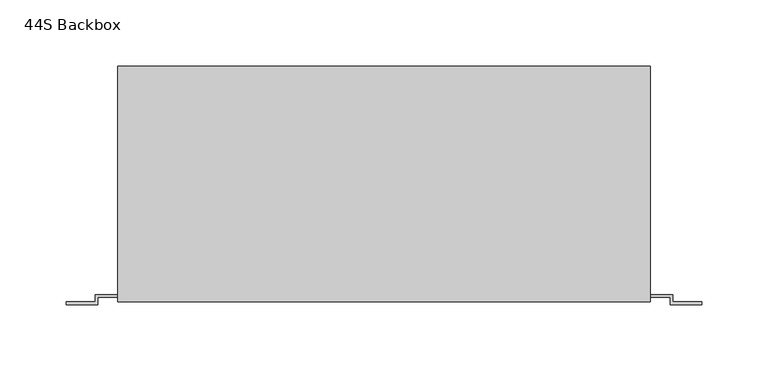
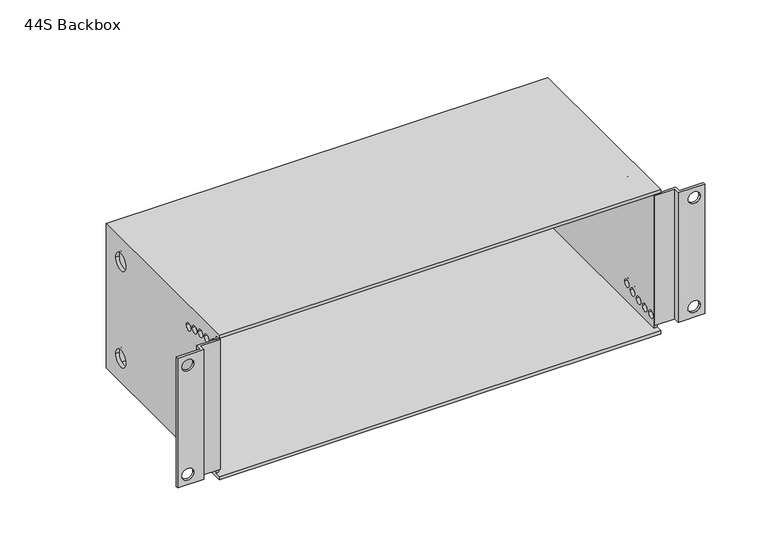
"""IFC4 building model written with IfcOpenShell, lengths in millimetres: proxy geometry, d&b xS-Series 44S Backbox : 44S Backbox."""

from ifc_helpers import new_model, si_unit, frame, origin, place, context, project, spatial, polyline, circle_curve, source, transform, mapped, element, save
from ifc_brep_helpers import plane_surface, revolved_surface, advanced_brep


def proxy_44s_backbox_d0b5ccca(model_context):
    return source(origin(), model_context, "Body", "AdvancedBrep", [
        advanced_brep(
        [(201.0, -90.5, 69.5), (201.0, -90.5, 66.5), (201.0, -85.0, 66.5), (201.0, -85.0, -66.5), (201.0, -90.5, -66.5), (201.0, -90.5, -69.5), (201.0, 87.5, -69.5), (201.0, 87.5, 69.5), (201.0, 56.5, 46.5), (201.0, 72.5, 46.5), (201.0, 56.5, -46.5), (201.0, 72.5, -46.5), (201.0, -46.0357641, 48.8058809), (201.0, -39.0357641, 48.8058809), (201.0, -55.271086, 51.7177667), (201.0, -48.271086, 51.7177667), (201.0, -64.7250523, 53.8136606), (201.0, -57.7250523, 53.8136606), (201.0, -74.3257126, 55.0776115), (201.0, -67.3257126, 55.0776115), (201.0, -84.0, -55.5), (201.0, -77.0, -55.5), (201.0, -74.3257126, -55.0776115), (201.0, -67.3257126, -55.0776115), (201.0, -64.7250523, -53.8136606), (201.0, -57.7250523, -53.8136606), (201.0, -55.271086, -51.7177667), (201.0, -48.271086, -51.7177667), (201.0, -46.0357641, -48.8058809), (201.0, -39.0357641, -48.8058809), (-201.0, -90.5, 69.5), (-201.0, 87.5, 69.5), (-201.0, 87.5, -69.5), (-201.0, -90.5, -69.5), (-201.0, -90.5, -66.5), (-201.0, -85.0, -66.5), (-201.0, -85.0, 66.5), (-201.0, -90.5, 66.5), (-201.0, 56.5, 46.5), (-201.0, 72.5, 46.5), (-201.0, 56.5, -46.5), (-201.0, 72.5, -46.5), (-201.0, -46.0357641, 48.8058809), (-201.0, -39.0357641, 48.8058809), (-201.0, -55.271086, 51.7177667), (-201.0, -48.271086, 51.7177667), (-201.0, -64.7250523, 53.8136606), (-201.0, -57.7250523, 53.8136606), (-201.0, -74.3257126, 55.0776115), (-201.0, -67.3257126, 55.0776115), (-201.0, -84.0, -55.5), (-201.0, -77.0, -55.5), (-201.0, -74.3257126, -55.0776115), (-201.0, -67.3257126, -55.0776115), (-201.0, -64.7250523, -53.8136606), (-201.0, -57.7250523, -53.8136606), (-201.0, -55.271086, -51.7177667), (-201.0, -48.271086, -51.7177667), (-201.0, -46.0357641, -48.8058809), (-201.0, -39.0357641, -48.8058809), (-201.0, -84.0, 55.5), (-201.0, -77.0, 55.5), (-198.0, -85.0, 66.5), (-198.0, 84.5, 66.5), (198.0, 84.5, 66.5), (198.0, -85.0, 66.5), (-198.0, 84.5, -66.5), (198.0, 84.5, -66.5), (198.0, -85.0, -66.5), (-198.0, -85.0, -66.5), (-198.0, 56.5, 46.5), (-198.0, 72.5, 46.5), (-198.0, 56.5, -46.5), (-198.0, 72.5, -46.5), (-198.0, -46.0357641, 48.8058809), (-198.0, -39.0357641, 48.8058809), (-198.0, -55.271086, 51.7177667), (-198.0, -48.271086, 51.7177667), (-198.0, -64.7250523, 53.8136606), (-198.0, -57.7250523, 53.8136606), (-198.0, -74.3257126, 55.0776115), (-198.0, -67.3257126, 55.0776115), (-198.0, -84.0, -55.5), (-198.0, -77.0, -55.5), (-198.0, -74.3257126, -55.0776115), (-198.0, -67.3257126, -55.0776115), (-198.0, -64.7250523, -53.8136606), (-198.0, -57.7250523, -53.8136606), (-198.0, -55.271086, -51.7177667), (-198.0, -48.271086, -51.7177667), (-198.0, -46.0357641, -48.8058809), (-198.0, -39.0357641, -48.8058809), (-198.0, -84.0, 55.5), (-198.0, -77.0, 55.5), (198.0, 56.5, 46.5), (198.0, 72.5, 46.5), (198.0, 56.5, -46.5), (198.0, 72.5, -46.5), (198.0, -46.0357641, 48.8058809), (198.0, -39.0357641, 48.8058809), (198.0, -55.271086, 51.7177667), (198.0, -48.271086, 51.7177667), (198.0, -64.7250523, 53.8136606), (198.0, -57.7250523, 53.8136606), (198.0, -74.3257126, 55.0776115), (198.0, -67.3257126, 55.0776115), (198.0, -84.0, -55.5), (198.0, -77.0, -55.5), (198.0, -74.3257126, -55.0776115), (198.0, -67.3257126, -55.0776115), (198.0, -64.7250523, -53.8136606), (198.0, -57.7250523, -53.8136606), (198.0, -55.271086, -51.7177667), (198.0, -48.271086, -51.7177667), (198.0, -46.0357641, -48.8058809), (198.0, -39.0357641, -48.8058809)],
        [
            (0, 1),
            (1, 2),
            (2, 3),
            (3, 4),
            (4, 5),
            (5, 6),
            (6, 7),
            (7, 0),
            (8, 9, circle_curve(frame((201.0, 64.5, 46.5), z_axis=(-1.0, 0.0, 0.0), x_axis=(0.0, 1.0, 0.0)), 8.0)),
            (9, 8, circle_curve(frame((201.0, 64.5, 46.5), z_axis=(-1.0, 0.0, 0.0), x_axis=(0.0, 1.0, 0.0)), 8.0)),
            (10, 11, circle_curve(frame((201.0, 64.5, -46.5), z_axis=(-1.0, 0.0, 0.0), x_axis=(0.0, 1.0, 0.0)), 8.0)),
            (11, 10, circle_curve(frame((201.0, 64.5, -46.5), z_axis=(-1.0, 0.0, 0.0), x_axis=(0.0, 1.0, 0.0)), 8.0)),
            (12, 13, circle_curve(frame((201.0, -42.5357641, 48.8058809), z_axis=(-1.0, 0.0, 0.0), x_axis=(0.0, 1.0, 0.0)), 3.5)),
            (13, 12, circle_curve(frame((201.0, -42.5357641, 48.8058809), z_axis=(-1.0, 0.0, 0.0), x_axis=(0.0, 1.0, 0.0)), 3.5)),
            (14, 15, circle_curve(frame((201.0, -51.771086, 51.7177667), z_axis=(-1.0, 0.0, 0.0), x_axis=(0.0, 1.0, 0.0)), 3.5)),
            (15, 14, circle_curve(frame((201.0, -51.771086, 51.7177667), z_axis=(-1.0, 0.0, 0.0), x_axis=(0.0, 1.0, 0.0)), 3.5)),
            (16, 17, circle_curve(frame((201.0, -61.2250523, 53.8136606), z_axis=(-1.0, 0.0, 0.0), x_axis=(0.0, 1.0, 0.0)), 3.5)),
            (17, 16, circle_curve(frame((201.0, -61.2250523, 53.8136606), z_axis=(-1.0, 0.0, 0.0), x_axis=(0.0, 1.0, 0.0)), 3.5)),
            (18, 19, circle_curve(frame((201.0, -70.8257126, 55.0776115), z_axis=(-1.0, 0.0, 0.0), x_axis=(0.0, 1.0, 0.0)), 3.5)),
            (19, 18, circle_curve(frame((201.0, -70.8257126, 55.0776115), z_axis=(-1.0, 0.0, 0.0), x_axis=(0.0, 1.0, 0.0)), 3.5)),
            (20, 21, circle_curve(frame((201.0, -80.5, -55.5), z_axis=(-1.0, 0.0, 0.0), x_axis=(0.0, 1.0, 0.0)), 3.5)),
            (21, 20, circle_curve(frame((201.0, -80.5, -55.5), z_axis=(-1.0, 0.0, 0.0), x_axis=(0.0, 1.0, 0.0)), 3.5)),
            (22, 23, circle_curve(frame((201.0, -70.8257126, -55.0776115), z_axis=(-1.0, 0.0, 0.0), x_axis=(0.0, 1.0, 0.0)), 3.5)),
            (23, 22, circle_curve(frame((201.0, -70.8257126, -55.0776115), z_axis=(-1.0, 0.0, 0.0), x_axis=(0.0, 1.0, 0.0)), 3.5)),
            (24, 25, circle_curve(frame((201.0, -61.2250523, -53.8136606), z_axis=(-1.0, 0.0, 0.0), x_axis=(0.0, 1.0, 0.0)), 3.5)),
            (25, 24, circle_curve(frame((201.0, -61.2250523, -53.8136606), z_axis=(-1.0, 0.0, 0.0), x_axis=(0.0, 1.0, 0.0)), 3.5)),
            (26, 27, circle_curve(frame((201.0, -51.771086, -51.7177667), z_axis=(-1.0, 0.0, 0.0), x_axis=(0.0, 1.0, 0.0)), 3.5)),
            (27, 26, circle_curve(frame((201.0, -51.771086, -51.7177667), z_axis=(-1.0, 0.0, 0.0), x_axis=(0.0, 1.0, 0.0)), 3.5)),
            (28, 29, circle_curve(frame((201.0, -42.5357641, -48.8058809), z_axis=(-1.0, 0.0, 0.0), x_axis=(0.0, 1.0, 0.0)), 3.5)),
            (29, 28, circle_curve(frame((201.0, -42.5357641, -48.8058809), z_axis=(-1.0, 0.0, 0.0), x_axis=(0.0, 1.0, 0.0)), 3.5)),
            (30, 31),
            (31, 32),
            (32, 33),
            (33, 34),
            (34, 35),
            (35, 36),
            (36, 37),
            (37, 30),
            (38, 39, circle_curve(frame((-201.0, 64.5, 46.5), z_axis=(1.0, 0.0, 0.0), x_axis=(0.0, 1.0, 0.0)), 8.0)),
            (39, 38, circle_curve(frame((-201.0, 64.5, 46.5), z_axis=(1.0, 0.0, 0.0), x_axis=(0.0, 1.0, 0.0)), 8.0)),
            (40, 41, circle_curve(frame((-201.0, 64.5, -46.5), z_axis=(1.0, 0.0, 0.0), x_axis=(0.0, 1.0, 0.0)), 8.0)),
            (41, 40, circle_curve(frame((-201.0, 64.5, -46.5), z_axis=(1.0, 0.0, 0.0), x_axis=(0.0, 1.0, 0.0)), 8.0)),
            (42, 43, circle_curve(frame((-201.0, -42.5357641, 48.8058809), z_axis=(1.0, 0.0, 0.0), x_axis=(0.0, 1.0, 0.0)), 3.5)),
            (43, 42, circle_curve(frame((-201.0, -42.5357641, 48.8058809), z_axis=(1.0, 0.0, 0.0), x_axis=(0.0, 1.0, 0.0)), 3.5)),
            (44, 45, circle_curve(frame((-201.0, -51.771086, 51.7177667), z_axis=(1.0, 0.0, 0.0), x_axis=(0.0, 1.0, 0.0)), 3.5)),
            (45, 44, circle_curve(frame((-201.0, -51.771086, 51.7177667), z_axis=(1.0, 0.0, 0.0), x_axis=(0.0, 1.0, 0.0)), 3.5)),
            (46, 47, circle_curve(frame((-201.0, -61.2250523, 53.8136606), z_axis=(1.0, 0.0, 0.0), x_axis=(0.0, 1.0, 0.0)), 3.5)),
            (47, 46, circle_curve(frame((-201.0, -61.2250523, 53.8136606), z_axis=(1.0, 0.0, 0.0), x_axis=(0.0, 1.0, 0.0)), 3.5)),
            (48, 49, circle_curve(frame((-201.0, -70.8257126, 55.0776115), z_axis=(1.0, 0.0, 0.0), x_axis=(0.0, 1.0, 0.0)), 3.5)),
            (49, 48, circle_curve(frame((-201.0, -70.8257126, 55.0776115), z_axis=(1.0, 0.0, 0.0), x_axis=(0.0, 1.0, 0.0)), 3.5)),
            (50, 51, circle_curve(frame((-201.0, -80.5, -55.5), z_axis=(1.0, 0.0, 0.0), x_axis=(0.0, 1.0, 0.0)), 3.5)),
            (51, 50, circle_curve(frame((-201.0, -80.5, -55.5), z_axis=(1.0, 0.0, 0.0), x_axis=(0.0, 1.0, 0.0)), 3.5)),
            (52, 53, circle_curve(frame((-201.0, -70.8257126, -55.0776115), z_axis=(1.0, 0.0, 0.0), x_axis=(0.0, 1.0, 0.0)), 3.5)),
            (53, 52, circle_curve(frame((-201.0, -70.8257126, -55.0776115), z_axis=(1.0, 0.0, 0.0), x_axis=(0.0, 1.0, 0.0)), 3.5)),
            (54, 55, circle_curve(frame((-201.0, -61.2250523, -53.8136606), z_axis=(1.0, 0.0, 0.0), x_axis=(0.0, 1.0, 0.0)), 3.5)),
            (55, 54, circle_curve(frame((-201.0, -61.2250523, -53.8136606), z_axis=(1.0, 0.0, 0.0), x_axis=(0.0, 1.0, 0.0)), 3.5)),
            (56, 57, circle_curve(frame((-201.0, -51.771086, -51.7177667), z_axis=(1.0, 0.0, 0.0), x_axis=(0.0, 1.0, 0.0)), 3.5)),
            (57, 56, circle_curve(frame((-201.0, -51.771086, -51.7177667), z_axis=(1.0, 0.0, 0.0), x_axis=(0.0, 1.0, 0.0)), 3.5)),
            (58, 59, circle_curve(frame((-201.0, -42.5357641, -48.8058809), z_axis=(1.0, 0.0, 0.0), x_axis=(0.0, 1.0, 0.0)), 3.5)),
            (59, 58, circle_curve(frame((-201.0, -42.5357641, -48.8058809), z_axis=(1.0, 0.0, 0.0), x_axis=(0.0, 1.0, 0.0)), 3.5)),
            (60, 61, circle_curve(frame((-201.0, -80.5, 55.5), z_axis=(1.0, 0.0, 0.0), x_axis=(0.0, 1.0, 0.0)), 3.5)),
            (61, 60, circle_curve(frame((-201.0, -80.5, 55.5), z_axis=(1.0, 0.0, 0.0), x_axis=(0.0, 1.0, 0.0)), 3.5)),
            (0, 30),
            (37, 1),
            (36, 62),
            (62, 63),
            (63, 64),
            (64, 65),
            (65, 2),
            (63, 66),
            (66, 67),
            (67, 64),
            (34, 4),
            (3, 68),
            (68, 67),
            (66, 69),
            (69, 35),
            (33, 5),
            (32, 6),
            (31, 7),
            (62, 69),
            (70, 71, circle_curve(frame((-198.0, 64.5, 46.5), z_axis=(-1.0, 0.0, 0.0), x_axis=(0.0, 1.0, 0.0)), 8.0)),
            (71, 70, circle_curve(frame((-198.0, 64.5, 46.5), z_axis=(-1.0, 0.0, 0.0), x_axis=(0.0, 1.0, 0.0)), 8.0)),
            (72, 73, circle_curve(frame((-198.0, 64.5, -46.5), z_axis=(-1.0, 0.0, 0.0), x_axis=(0.0, 1.0, 0.0)), 8.0)),
            (73, 72, circle_curve(frame((-198.0, 64.5, -46.5), z_axis=(-1.0, 0.0, 0.0), x_axis=(0.0, 1.0, 0.0)), 8.0)),
            (74, 75, circle_curve(frame((-198.0, -42.5357641, 48.8058809), z_axis=(-1.0, 0.0, 0.0), x_axis=(0.0, 1.0, 0.0)), 3.5)),
            (75, 74, circle_curve(frame((-198.0, -42.5357641, 48.8058809), z_axis=(-1.0, 0.0, 0.0), x_axis=(0.0, 1.0, 0.0)), 3.5)),
            (76, 77, circle_curve(frame((-198.0, -51.771086, 51.7177667), z_axis=(-1.0, 0.0, 0.0), x_axis=(0.0, 1.0, 0.0)), 3.5)),
            (77, 76, circle_curve(frame((-198.0, -51.771086, 51.7177667), z_axis=(-1.0, 0.0, 0.0), x_axis=(0.0, 1.0, 0.0)), 3.5)),
            (78, 79, circle_curve(frame((-198.0, -61.2250523, 53.8136606), z_axis=(-1.0, 0.0, 0.0), x_axis=(0.0, 1.0, 0.0)), 3.5)),
            (79, 78, circle_curve(frame((-198.0, -61.2250523, 53.8136606), z_axis=(-1.0, 0.0, 0.0), x_axis=(0.0, 1.0, 0.0)), 3.5)),
            (80, 81, circle_curve(frame((-198.0, -70.8257126, 55.0776115), z_axis=(-1.0, 0.0, 0.0), x_axis=(0.0, 1.0, 0.0)), 3.5)),
            (81, 80, circle_curve(frame((-198.0, -70.8257126, 55.0776115), z_axis=(-1.0, 0.0, 0.0), x_axis=(0.0, 1.0, 0.0)), 3.5)),
            (82, 83, circle_curve(frame((-198.0, -80.5, -55.5), z_axis=(-1.0, 0.0, 0.0), x_axis=(0.0, 1.0, 0.0)), 3.5)),
            (83, 82, circle_curve(frame((-198.0, -80.5, -55.5), z_axis=(-1.0, 0.0, 0.0), x_axis=(0.0, 1.0, 0.0)), 3.5)),
            (84, 85, circle_curve(frame((-198.0, -70.8257126, -55.0776115), z_axis=(-1.0, 0.0, 0.0), x_axis=(0.0, 1.0, 0.0)), 3.5)),
            (85, 84, circle_curve(frame((-198.0, -70.8257126, -55.0776115), z_axis=(-1.0, 0.0, 0.0), x_axis=(0.0, 1.0, 0.0)), 3.5)),
            (86, 87, circle_curve(frame((-198.0, -61.2250523, -53.8136606), z_axis=(-1.0, 0.0, 0.0), x_axis=(0.0, 1.0, 0.0)), 3.5)),
            (87, 86, circle_curve(frame((-198.0, -61.2250523, -53.8136606), z_axis=(-1.0, 0.0, 0.0), x_axis=(0.0, 1.0, 0.0)), 3.5)),
            (88, 89, circle_curve(frame((-198.0, -51.771086, -51.7177667), z_axis=(-1.0, 0.0, 0.0), x_axis=(0.0, 1.0, 0.0)), 3.5)),
            (89, 88, circle_curve(frame((-198.0, -51.771086, -51.7177667), z_axis=(-1.0, 0.0, 0.0), x_axis=(0.0, 1.0, 0.0)), 3.5)),
            (90, 91, circle_curve(frame((-198.0, -42.5357641, -48.8058809), z_axis=(-1.0, 0.0, 0.0), x_axis=(0.0, 1.0, 0.0)), 3.5)),
            (91, 90, circle_curve(frame((-198.0, -42.5357641, -48.8058809), z_axis=(-1.0, 0.0, 0.0), x_axis=(0.0, 1.0, 0.0)), 3.5)),
            (92, 93, circle_curve(frame((-198.0, -80.5, 55.5), z_axis=(-1.0, 0.0, 0.0), x_axis=(0.0, 1.0, 0.0)), 3.5)),
            (93, 92, circle_curve(frame((-198.0, -80.5, 55.5), z_axis=(-1.0, 0.0, 0.0), x_axis=(0.0, 1.0, 0.0)), 3.5)),
            (70, 38),
            (39, 71),
            (72, 40),
            (41, 73),
            (74, 42),
            (43, 75),
            (76, 44),
            (45, 77),
            (78, 46),
            (47, 79),
            (80, 48),
            (49, 81),
            (82, 50),
            (51, 83),
            (84, 52),
            (53, 85),
            (86, 54),
            (55, 87),
            (88, 56),
            (57, 89),
            (90, 58),
            (59, 91),
            (68, 65),
            (94, 95, circle_curve(frame((198.0, 64.5, 46.5), z_axis=(1.0, 0.0, 0.0), x_axis=(0.0, 1.0, 0.0)), 8.0)),
            (95, 94, circle_curve(frame((198.0, 64.5, 46.5), z_axis=(1.0, 0.0, 0.0), x_axis=(0.0, 1.0, 0.0)), 8.0)),
            (96, 97, circle_curve(frame((198.0, 64.5, -46.5), z_axis=(1.0, 0.0, 0.0), x_axis=(0.0, 1.0, 0.0)), 8.0)),
            (97, 96, circle_curve(frame((198.0, 64.5, -46.5), z_axis=(1.0, 0.0, 0.0), x_axis=(0.0, 1.0, 0.0)), 8.0)),
            (98, 99, circle_curve(frame((198.0, -42.5357641, 48.8058809), z_axis=(1.0, 0.0, 0.0), x_axis=(0.0, 1.0, 0.0)), 3.5)),
            (99, 98, circle_curve(frame((198.0, -42.5357641, 48.8058809), z_axis=(1.0, 0.0, 0.0), x_axis=(0.0, 1.0, 0.0)), 3.5)),
            (100, 101, circle_curve(frame((198.0, -51.771086, 51.7177667), z_axis=(1.0, 0.0, 0.0), x_axis=(0.0, 1.0, 0.0)), 3.5)),
            (101, 100, circle_curve(frame((198.0, -51.771086, 51.7177667), z_axis=(1.0, 0.0, 0.0), x_axis=(0.0, 1.0, 0.0)), 3.5)),
            (102, 103, circle_curve(frame((198.0, -61.2250523, 53.8136606), z_axis=(1.0, 0.0, 0.0), x_axis=(0.0, 1.0, 0.0)), 3.5)),
            (103, 102, circle_curve(frame((198.0, -61.2250523, 53.8136606), z_axis=(1.0, 0.0, 0.0), x_axis=(0.0, 1.0, 0.0)), 3.5)),
            (104, 105, circle_curve(frame((198.0, -70.8257126, 55.0776115), z_axis=(1.0, 0.0, 0.0), x_axis=(0.0, 1.0, 0.0)), 3.5)),
            (105, 104, circle_curve(frame((198.0, -70.8257126, 55.0776115), z_axis=(1.0, 0.0, 0.0), x_axis=(0.0, 1.0, 0.0)), 3.5)),
            (106, 107, circle_curve(frame((198.0, -80.5, -55.5), z_axis=(1.0, 0.0, 0.0), x_axis=(0.0, 1.0, 0.0)), 3.5)),
            (107, 106, circle_curve(frame((198.0, -80.5, -55.5), z_axis=(1.0, 0.0, 0.0), x_axis=(0.0, 1.0, 0.0)), 3.5)),
            (108, 109, circle_curve(frame((198.0, -70.8257126, -55.0776115), z_axis=(1.0, 0.0, 0.0), x_axis=(0.0, 1.0, 0.0)), 3.5)),
            (109, 108, circle_curve(frame((198.0, -70.8257126, -55.0776115), z_axis=(1.0, 0.0, 0.0), x_axis=(0.0, 1.0, 0.0)), 3.5)),
            (110, 111, circle_curve(frame((198.0, -61.2250523, -53.8136606), z_axis=(1.0, 0.0, 0.0), x_axis=(0.0, 1.0, 0.0)), 3.5)),
            (111, 110, circle_curve(frame((198.0, -61.2250523, -53.8136606), z_axis=(1.0, 0.0, 0.0), x_axis=(0.0, 1.0, 0.0)), 3.5)),
            (112, 113, circle_curve(frame((198.0, -51.771086, -51.7177667), z_axis=(1.0, 0.0, 0.0), x_axis=(0.0, 1.0, 0.0)), 3.5)),
            (113, 112, circle_curve(frame((198.0, -51.771086, -51.7177667), z_axis=(1.0, 0.0, 0.0), x_axis=(0.0, 1.0, 0.0)), 3.5)),
            (114, 115, circle_curve(frame((198.0, -42.5357641, -48.8058809), z_axis=(1.0, 0.0, 0.0), x_axis=(0.0, 1.0, 0.0)), 3.5)),
            (115, 114, circle_curve(frame((198.0, -42.5357641, -48.8058809), z_axis=(1.0, 0.0, 0.0), x_axis=(0.0, 1.0, 0.0)), 3.5)),
            (92, 60),
            (61, 93),
            (95, 9),
            (8, 94),
            (97, 11),
            (10, 96),
            (99, 13),
            (12, 98),
            (101, 15),
            (14, 100),
            (103, 17),
            (16, 102),
            (105, 19),
            (18, 104),
            (107, 21),
            (20, 106),
            (109, 23),
            (22, 108),
            (111, 25),
            (24, 110),
            (113, 27),
            (26, 112),
            (115, 29),
            (28, 114),
        ],
        [
            plane_surface(frame((201.0, -90.5, -374.3), z_axis=(1.0, 0.0, 0.0), x_axis=(0.0, 0.0, -1.0))),
            plane_surface(frame((-201.0, -90.5, -374.3), z_axis=(-1.0, 0.0, 0.0), x_axis=(0.0, 0.0, 1.0))),
            plane_surface(frame((201.0, -90.5, 69.5), z_axis=(0.0, -1.0, 0.0), x_axis=(-1.0, 0.0, 0.0))),
            plane_surface(frame((201.0, -90.5, 66.5), z_axis=(0.0, 0.0, -1.0), x_axis=(-1.0, 0.0, 0.0))),
            plane_surface(frame((201.0, 84.5, 66.5), z_axis=(0.0, -1.0, 0.0), x_axis=(-1.0, 0.0, 0.0))),
            plane_surface(frame((201.0, 84.5, -66.5), z_axis=(0.0, 0.0, 1.0), x_axis=(-1.0, 0.0, 0.0))),
            plane_surface(frame((201.0, -90.5, -66.5), z_axis=(0.0, -1.0, 0.0), x_axis=(-1.0, 0.0, 0.0))),
            plane_surface(frame((201.0, -90.5, -69.5), z_axis=(0.0, 0.0, -1.0), x_axis=(-1.0, 0.0, 0.0))),
            plane_surface(frame((201.0, 87.5, -69.5), z_axis=(0.0, 1.0, 0.0), x_axis=(-1.0, 0.0, 0.0))),
            plane_surface(frame((201.0, 87.5, 69.5), z_axis=(0.0, 0.0, 1.0), x_axis=(-1.0, 0.0, 0.0))),
            plane_surface(frame((-198.0, -85.0, 69.5), z_axis=(1.0, 0.0, 0.0), x_axis=(0.0, 0.0, -1.0))),
            plane_surface(frame((-198.0, -85.0, 66.5), z_axis=(0.0, -1.0, 0.0), x_axis=(-1.0, 0.0, 0.0))),
            revolved_surface(polyline([(-201.0, 72.5, 46.5), (-198.0, 72.5, 46.5)]), (-201.0, 64.5, 46.5), (-1.0, 0.0, 0.0)),
            revolved_surface(polyline([(-201.0, 72.5, -46.5), (-198.0, 72.5, -46.5)]), (-201.0, 64.5, -46.5), (-1.0, 0.0, 0.0)),
            revolved_surface(polyline([(-201.0, -39.0357641, 48.8058809), (-198.0, -39.0357641, 48.8058809)]), (-201.0, -42.5357641, 48.8058809), (-1.0, 0.0, 0.0)),
            revolved_surface(polyline([(-201.0, -48.271086, 51.7177667), (-198.0, -48.271086, 51.7177667)]), (-201.0, -51.771086, 51.7177667), (-1.0, 0.0, 0.0)),
            revolved_surface(polyline([(-201.0, -57.7250523, 53.8136606), (-198.0, -57.7250523, 53.8136606)]), (-201.0, -61.2250523, 53.8136606), (-1.0, 0.0, 0.0)),
            revolved_surface(polyline([(-201.0, -67.3257126, 55.0776115), (-198.0, -67.3257126, 55.0776115)]), (-201.0, -70.8257126, 55.0776115), (-1.0, 0.0, 0.0)),
            revolved_surface(polyline([(-201.0, -77.0, -55.5), (-198.0, -77.0, -55.5)]), (-201.0, -80.5, -55.5), (-1.0, 0.0, 0.0)),
            revolved_surface(polyline([(-201.0, -67.3257126, -55.0776115), (-198.0, -67.3257126, -55.0776115)]), (-201.0, -70.8257126, -55.0776115), (-1.0, 0.0, 0.0)),
            revolved_surface(polyline([(-201.0, -57.7250523, -53.8136606), (-198.0, -57.7250523, -53.8136606)]), (-201.0, -61.2250523, -53.8136606), (-1.0, 0.0, 0.0)),
            revolved_surface(polyline([(-201.0, -48.271086, -51.7177667), (-198.0, -48.271086, -51.7177667)]), (-201.0, -51.771086, -51.7177667), (-1.0, 0.0, 0.0)),
            revolved_surface(polyline([(-201.0, -39.0357641, -48.8058809), (-198.0, -39.0357641, -48.8058809)]), (-201.0, -42.5357641, -48.8058809), (-1.0, 0.0, 0.0)),
            plane_surface(frame((198.0, 87.5, 66.5), z_axis=(-1.0, 0.0, 0.0), x_axis=(0.0, 1.0, 0.0))),
            plane_surface(frame((198.0, -85.0, -66.5), z_axis=(0.0, -1.0, 0.0), x_axis=(1.0, 0.0, 0.0))),
            revolved_surface(polyline([(-201.0, -77.0, 55.5), (-198.0, -77.0, 55.5)]), (-201.0, -80.5, 55.5), (-1.0, 0.0, 0.0)),
            revolved_surface(polyline([(201.0, 72.5, 46.5), (198.0, 72.5, 46.5)]), (201.0, 64.5, 46.5), (1.0, 0.0, 0.0)),
            revolved_surface(polyline([(201.0, 72.5, -46.5), (198.0, 72.5, -46.5)]), (201.0, 64.5, -46.5), (1.0, 0.0, 0.0)),
            revolved_surface(polyline([(201.0, -39.0357641, 48.8058809), (198.0, -39.0357641, 48.8058809)]), (201.0, -42.5357641, 48.8058809), (1.0, 0.0, 0.0)),
            revolved_surface(polyline([(201.0, -48.271086, 51.7177667), (198.0, -48.271086, 51.7177667)]), (201.0, -51.771086, 51.7177667), (1.0, 0.0, 0.0)),
            revolved_surface(polyline([(201.0, -57.7250523, 53.8136606), (198.0, -57.7250523, 53.8136606)]), (201.0, -61.2250523, 53.8136606), (1.0, 0.0, 0.0)),
            revolved_surface(polyline([(201.0, -67.3257126, 55.0776115), (198.0, -67.3257126, 55.0776115)]), (201.0, -70.8257126, 55.0776115), (1.0, 0.0, 0.0)),
            revolved_surface(polyline([(201.0, -77.0, -55.5), (198.0, -77.0, -55.5)]), (201.0, -80.5, -55.5), (1.0, 0.0, 0.0)),
            revolved_surface(polyline([(201.0, -67.3257126, -55.0776115), (198.0, -67.3257126, -55.0776115)]), (201.0, -70.8257126, -55.0776115), (1.0, 0.0, 0.0)),
            revolved_surface(polyline([(201.0, -57.7250523, -53.8136606), (198.0, -57.7250523, -53.8136606)]), (201.0, -61.2250523, -53.8136606), (1.0, 0.0, 0.0)),
            revolved_surface(polyline([(201.0, -48.271086, -51.7177667), (198.0, -48.271086, -51.7177667)]), (201.0, -51.771086, -51.7177667), (1.0, 0.0, 0.0)),
            revolved_surface(polyline([(201.0, -39.0357641, -48.8058809), (198.0, -39.0357641, -48.8058809)]), (201.0, -42.5357641, -48.8058809), (1.0, 0.0, 0.0)),
        ],
        [
            (0, [[1, 2, 3, 4, 5, 6, 7, 8], [9, 10], [11, 12], [13, 14], [15, 16], [17, 18], [19, 20], [21, 22], [23, 24], [25, 26], [27, 28], [29, 30]]),
            (1, [[31, 32, 33, 34, 35, 36, 37, 38], [39, 40], [41, 42], [43, 44], [45, 46], [47, 48], [49, 50], [51, 52], [53, 54], [55, 56], [57, 58], [59, 60], [61, 62]]),
            (2, [[-1, 63, -38, 64]]),
            (3, [[-64, -37, 65, 66, 67, 68, 69, -2]]),
            (4, [[70, 71, 72, -67]]),
            (5, [[73, -4, 74, 75, -71, 76, 77, -35]]),
            (6, [[-5, -73, -34, 78]]),
            (7, [[-6, -78, -33, 79]]),
            (8, [[-7, -79, -32, 80]]),
            (9, [[-8, -80, -31, -63]]),
            (10, [[81, -76, -70, -66], [82, 83], [84, 85], [86, 87], [88, 89], [90, 91], [92, 93], [94, 95], [96, 97], [98, 99], [100, 101], [102, 103], [104, 105]]),
            (11, [[-81, -65, -36, -77]]),
            (12, [[-82, 106, -40, 107]]),
            (12, [[-83, -107, -39, -106]]),
            (13, [[-84, 108, -42, 109]]),
            (13, [[-85, -109, -41, -108]]),
            (14, [[-86, 110, -44, 111]]),
            (14, [[-87, -111, -43, -110]]),
            (15, [[-88, 112, -46, 113]]),
            (15, [[-89, -113, -45, -112]]),
            (16, [[-90, 114, -48, 115]]),
            (16, [[-91, -115, -47, -114]]),
            (17, [[-92, 116, -50, 117]]),
            (17, [[-93, -117, -49, -116]]),
            (18, [[-94, 118, -52, 119]]),
            (18, [[-95, -119, -51, -118]]),
            (19, [[-96, 120, -54, 121]]),
            (19, [[-97, -121, -53, -120]]),
            (20, [[-98, 122, -56, 123]]),
            (20, [[-99, -123, -55, -122]]),
            (21, [[-100, 124, -58, 125]]),
            (21, [[-101, -125, -57, -124]]),
            (22, [[-102, 126, -60, 127]]),
            (22, [[-103, -127, -59, -126]]),
            (23, [[128, -68, -72, -75], [129, 130], [131, 132], [133, 134], [135, 136], [137, 138], [139, 140], [141, 142], [143, 144], [145, 146], [147, 148], [149, 150]]),
            (24, [[-128, -74, -3, -69]]),
            (25, [[-104, 151, -62, 152]]),
            (25, [[-105, -152, -61, -151]]),
            (26, [[-130, 153, -9, 154]]),
            (26, [[-129, -154, -10, -153]]),
            (27, [[-132, 155, -11, 156]]),
            (27, [[-131, -156, -12, -155]]),
            (28, [[-134, 157, -13, 158]]),
            (28, [[-133, -158, -14, -157]]),
            (29, [[-136, 159, -15, 160]]),
            (29, [[-135, -160, -16, -159]]),
            (30, [[-138, 161, -17, 162]]),
            (30, [[-137, -162, -18, -161]]),
            (31, [[-140, 163, -19, 164]]),
            (31, [[-139, -164, -20, -163]]),
            (32, [[-142, 165, -21, 166]]),
            (32, [[-141, -166, -22, -165]]),
            (33, [[-144, 167, -23, 168]]),
            (33, [[-143, -168, -24, -167]]),
            (34, [[-146, 169, -25, 170]]),
            (34, [[-145, -170, -26, -169]]),
            (35, [[-148, 171, -27, 172]]),
            (35, [[-147, -172, -28, -171]]),
            (36, [[-150, 173, -29, 174]]),
            (36, [[-149, -174, -30, -173]]),
        ],
    ),
        advanced_brep(
        [(216.0, -92.5, 62.5), (240.0, -92.5, 62.5), (240.0, -90.5, 62.5), (218.0, -90.5, 62.5), (218.0, -85.0, 62.5), (198.0, -85.0, 62.5), (198.0, -87.0, 62.5), (216.0, -87.0, 62.5), (216.0, -92.5, -62.5), (216.0, -87.0, -62.5), (198.0, -87.0, -62.5), (198.0, -85.0, -62.5), (218.0, -85.0, -62.5), (218.0, -90.5, -62.5), (240.0, -90.5, -62.5), (240.0, -92.5, -62.5), (236.0, -90.5, 52.5), (225.0, -90.5, 52.5), (236.0, -90.5, -52.5), (225.0, -90.5, -52.5), (225.0, -92.5, 52.5), (236.0, -92.5, 52.5), (225.0, -92.5, -52.5), (236.0, -92.5, -52.5)],
        [
            (0, 1),
            (1, 2),
            (2, 3),
            (3, 4),
            (4, 5),
            (5, 6),
            (6, 7),
            (7, 0),
            (8, 9),
            (9, 10),
            (10, 11),
            (11, 12),
            (12, 13),
            (13, 14),
            (14, 15),
            (15, 8),
            (7, 9),
            (8, 0),
            (6, 10),
            (5, 11),
            (4, 12),
            (3, 13),
            (2, 14),
            (16, 17, circle_curve(frame((230.5, -90.5, 52.5), z_axis=(0.0, -1.0, 0.0), x_axis=(-1.0, 0.0, 0.0)), 5.5)),
            (17, 16, circle_curve(frame((230.5, -90.5, 52.5), z_axis=(0.0, -1.0, 0.0), x_axis=(-1.0, 0.0, 0.0)), 5.5)),
            (18, 19, circle_curve(frame((230.5, -90.5, -52.5), z_axis=(0.0, -1.0, 0.0), x_axis=(-1.0, 0.0, 0.0)), 5.5)),
            (19, 18, circle_curve(frame((230.5, -90.5, -52.5), z_axis=(0.0, -1.0, 0.0), x_axis=(-1.0, 0.0, 0.0)), 5.5)),
            (1, 15),
            (20, 21, circle_curve(frame((230.5, -92.5, 52.5), z_axis=(0.0, 1.0, 0.0), x_axis=(-1.0, 0.0, 0.0)), 5.5)),
            (21, 20, circle_curve(frame((230.5, -92.5, 52.5), z_axis=(0.0, 1.0, 0.0), x_axis=(-1.0, 0.0, 0.0)), 5.5)),
            (22, 23, circle_curve(frame((230.5, -92.5, -52.5), z_axis=(0.0, 1.0, 0.0), x_axis=(-1.0, 0.0, 0.0)), 5.5)),
            (23, 22, circle_curve(frame((230.5, -92.5, -52.5), z_axis=(0.0, 1.0, 0.0), x_axis=(-1.0, 0.0, 0.0)), 5.5)),
            (20, 17),
            (16, 21),
            (22, 19),
            (18, 23),
        ],
        [
            plane_surface(frame((240.0, -92.5, 62.5), z_axis=(0.0, 0.0, 1.0), x_axis=(1.0, 0.0, 0.0))),
            plane_surface(frame((240.0, -92.5, -62.5), z_axis=(0.0, 0.0, -1.0), x_axis=(-1.0, 0.0, 0.0))),
            plane_surface(frame((216.0, -87.0, 62.5), z_axis=(-1.0, 0.0, 0.0), x_axis=(0.0, 0.0, -1.0))),
            plane_surface(frame((198.0, -87.0, 62.5), z_axis=(0.0, -1.0, 0.0), x_axis=(0.0, 0.0, -1.0))),
            plane_surface(frame((198.0, -85.0, 62.5), z_axis=(-1.0, 0.0, 0.0), x_axis=(0.0, 0.0, -1.0))),
            plane_surface(frame((218.0, -85.0, 62.5), z_axis=(0.0, 1.0, 0.0), x_axis=(0.0, 0.0, -1.0))),
            plane_surface(frame((218.0, -90.5, 62.5), z_axis=(1.0, 0.0, 0.0), x_axis=(0.0, 0.0, -1.0))),
            plane_surface(frame((240.0, -90.5, 62.5), z_axis=(0.0, 1.0, 0.0), x_axis=(0.0, 0.0, -1.0))),
            plane_surface(frame((240.0, -92.5, 62.5), z_axis=(1.0, 0.0, 0.0), x_axis=(0.0, 0.0, -1.0))),
            plane_surface(frame((216.0, -92.5, 62.5), z_axis=(0.0, -1.0, 0.0), x_axis=(0.0, 0.0, -1.0))),
            revolved_surface(polyline([(225.0, -92.5, 52.5), (225.0, -90.5, 52.5)]), (230.5, -90.5, 52.5), (0.0, -1.0, 0.0)),
            revolved_surface(polyline([(225.0, -92.5, -52.5), (225.0, -90.5, -52.5)]), (230.5, -90.5, -52.5), (0.0, -1.0, 0.0)),
        ],
        [
            (0, [[1, 2, 3, 4, 5, 6, 7, 8]]),
            (1, [[9, 10, 11, 12, 13, 14, 15, 16]]),
            (2, [[-8, 17, -9, 18]]),
            (3, [[-7, 19, -10, -17]]),
            (4, [[-6, 20, -11, -19]]),
            (5, [[-5, 21, -12, -20]]),
            (6, [[-4, 22, -13, -21]]),
            (7, [[-3, 23, -14, -22], [24, 25], [26, 27]]),
            (8, [[-2, 28, -15, -23]]),
            (9, [[-1, -18, -16, -28], [29, 30], [31, 32]]),
            (10, [[33, -24, 34, -29]]),
            (10, [[-33, -30, -34, -25]]),
            (11, [[35, -26, 36, -31]]),
            (11, [[-35, -32, -36, -27]]),
        ],
    ),
        advanced_brep(
        [(-216.0, -92.5, 62.5), (-216.0, -87.0, 62.5), (-198.0, -87.0, 62.5), (-198.0, -85.0, 62.5), (-218.0, -85.0, 62.5), (-218.0, -90.5, 62.5), (-240.0, -90.5, 62.5), (-240.0, -92.5, 62.5), (-216.0, -92.5, -62.5), (-240.0, -92.5, -62.5), (-240.0, -90.5, -62.5), (-218.0, -90.5, -62.5), (-218.0, -85.0, -62.5), (-198.0, -85.0, -62.5), (-198.0, -87.0, -62.5), (-216.0, -87.0, -62.5), (-236.0, -90.5, 52.5), (-225.0, -90.5, 52.5), (-236.0, -90.5, -52.5), (-225.0, -90.5, -52.5), (-225.0, -92.5, 52.5), (-236.0, -92.5, 52.5), (-225.0, -92.5, -52.5), (-236.0, -92.5, -52.5)],
        [
            (0, 1),
            (1, 2),
            (2, 3),
            (3, 4),
            (4, 5),
            (5, 6),
            (6, 7),
            (7, 0),
            (8, 9),
            (9, 10),
            (10, 11),
            (11, 12),
            (12, 13),
            (13, 14),
            (14, 15),
            (15, 8),
            (0, 8),
            (15, 1),
            (14, 2),
            (13, 3),
            (12, 4),
            (11, 5),
            (10, 6),
            (16, 17, circle_curve(frame((-230.5, -90.5, 52.5), z_axis=(0.0, -1.0, 0.0), x_axis=(1.0, 0.0, 0.0)), 5.5)),
            (17, 16, circle_curve(frame((-230.5, -90.5, 52.5), z_axis=(0.0, -1.0, 0.0), x_axis=(1.0, 0.0, 0.0)), 5.5)),
            (18, 19, circle_curve(frame((-230.5, -90.5, -52.5), z_axis=(0.0, -1.0, 0.0), x_axis=(1.0, 0.0, 0.0)), 5.5)),
            (19, 18, circle_curve(frame((-230.5, -90.5, -52.5), z_axis=(0.0, -1.0, 0.0), x_axis=(1.0, 0.0, 0.0)), 5.5)),
            (9, 7),
            (20, 21, circle_curve(frame((-230.5, -92.5, 52.5), z_axis=(0.0, 1.0, 0.0), x_axis=(1.0, 0.0, 0.0)), 5.5)),
            (21, 20, circle_curve(frame((-230.5, -92.5, 52.5), z_axis=(0.0, 1.0, 0.0), x_axis=(1.0, 0.0, 0.0)), 5.5)),
            (22, 23, circle_curve(frame((-230.5, -92.5, -52.5), z_axis=(0.0, 1.0, 0.0), x_axis=(1.0, 0.0, 0.0)), 5.5)),
            (23, 22, circle_curve(frame((-230.5, -92.5, -52.5), z_axis=(0.0, 1.0, 0.0), x_axis=(1.0, 0.0, 0.0)), 5.5)),
            (20, 17),
            (16, 21),
            (22, 19),
            (18, 23),
        ],
        [
            plane_surface(frame((-216.0, -90.0, 62.5), z_axis=(0.0, 0.0, 1.0), x_axis=(0.0, 1.0, 0.0))),
            plane_surface(frame((-216.0, -90.0, -62.5), z_axis=(0.0, 0.0, -1.0), x_axis=(0.0, -1.0, 0.0))),
            plane_surface(frame((-216.0, -92.5, 62.5), z_axis=(1.0, 0.0, 0.0), x_axis=(0.0, 0.0, -1.0))),
            plane_surface(frame((-216.0, -87.0, 62.5), z_axis=(0.0, -1.0, 0.0), x_axis=(0.0, 0.0, -1.0))),
            plane_surface(frame((-198.0, -87.0, 62.5), z_axis=(1.0, 0.0, 0.0), x_axis=(0.0, 0.0, -1.0))),
            plane_surface(frame((-198.0, -85.0, 62.5), z_axis=(0.0, 1.0, 0.0), x_axis=(0.0, 0.0, -1.0))),
            plane_surface(frame((-218.0, -85.0, 62.5), z_axis=(-1.0, 0.0, 0.0), x_axis=(0.0, 0.0, -1.0))),
            plane_surface(frame((-218.0, -90.5, 62.5), z_axis=(0.0, 1.0, 0.0), x_axis=(0.0, 0.0, -1.0))),
            plane_surface(frame((-240.0, -90.5, 62.5), z_axis=(-1.0, 0.0, 0.0), x_axis=(0.0, 0.0, -1.0))),
            plane_surface(frame((-240.0, -92.5, 62.5), z_axis=(0.0, -1.0, 0.0), x_axis=(0.0, 0.0, -1.0))),
            revolved_surface(polyline([(-225.0, -92.5, 52.5), (-225.0, -90.5, 52.5)]), (-230.5, -90.5, 52.5), (0.0, -1.0, 0.0)),
            revolved_surface(polyline([(-225.0, -92.5, -52.5), (-225.0, -90.5, -52.5)]), (-230.5, -90.5, -52.5), (0.0, -1.0, 0.0)),
        ],
        [
            (0, [[1, 2, 3, 4, 5, 6, 7, 8]]),
            (1, [[9, 10, 11, 12, 13, 14, 15, 16]]),
            (2, [[-1, 17, -16, 18]]),
            (3, [[-2, -18, -15, 19]]),
            (4, [[-3, -19, -14, 20]]),
            (5, [[-4, -20, -13, 21]]),
            (6, [[-5, -21, -12, 22]]),
            (7, [[-6, -22, -11, 23], [24, 25], [26, 27]]),
            (8, [[-7, -23, -10, 28]]),
            (9, [[-8, -28, -9, -17], [29, 30], [31, 32]]),
            (10, [[33, -24, 34, -29]]),
            (10, [[-33, -30, -34, -25]]),
            (11, [[35, -26, 36, -31]]),
            (11, [[-35, -32, -36, -27]]),
        ],
    ),
    ])


if __name__ == "__main__":
    model = new_model("IFC4")
    model_context = context("Model", 3, world=origin())
    ifc_project = project(units=[si_unit("LENGTHUNIT", "METRE", prefix="MILLI")], contexts=[model_context])
    site = spatial("IfcSite", under=ifc_project)
    building = spatial("IfcBuilding", under=site)
    placement = place(None, origin())
    proxy_44s_backbox_shape = proxy_44s_backbox_d0b5ccca(model_context)
    element("IfcBuildingElementProxy", 1, Name="d&b xS-Series 44S Backbox : 44S Backbox", ObjectType="d&b xS-Series 44S Backbox : 44S Backbox", at=placement, inside=building, context=model_context, shape_type="MappedRepresentation", body=[
        mapped(proxy_44s_backbox_shape, transform((0.0, 0.0, 0.0), x_axis=(1.0, 0.0, 0.0), y_axis=(0.0, 1.0, 0.0), z_axis=(0.0, 0.0, 1.0))),
    ])
    save(model, "model.ifc")
